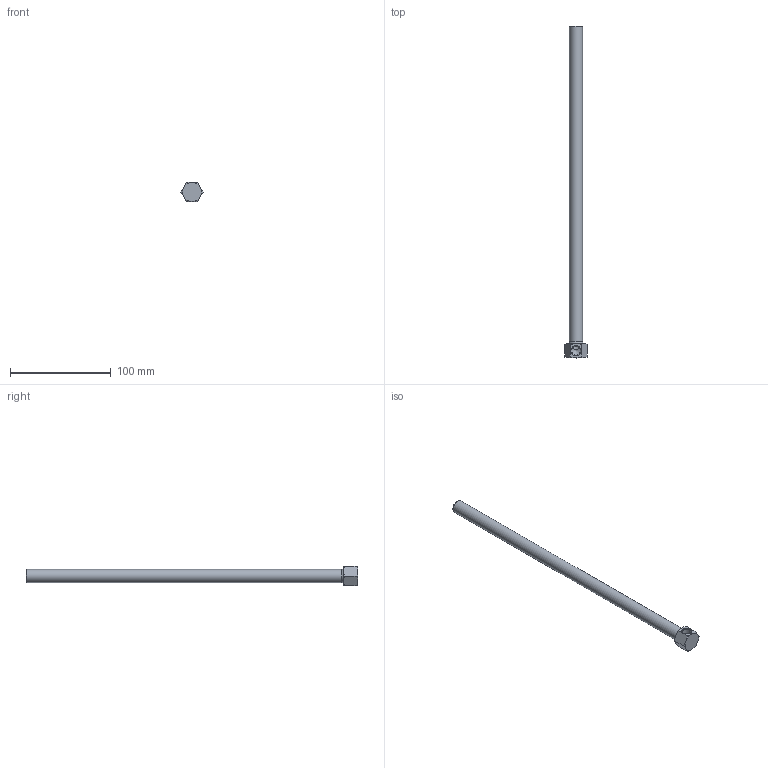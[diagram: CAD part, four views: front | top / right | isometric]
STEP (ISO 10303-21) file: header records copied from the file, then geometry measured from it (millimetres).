
FILE_DESCRIPTION(/* description */ (''),/* implementation_level */ '2;1');
FILE_NAME(/* name */ 'C:/Users/drich/Desktop/1814B-13 v1.step',/* time_stamp */ '2019-12-29T15:31:10-06:00',/* author */ (''),/* organization */ (''),/* preprocessor_version */ 'ST-DEVELOPER v18',/* originating_system */ 'Autodesk Translation Framework v8.12.0.6',/* authorisation */ '');
FILE_SCHEMA (('AUTOMOTIVE_DESIGN { 1 0 10303 214 3 1 1 }'));
Length unit declared in the file: inch
Products named in the file (1): 1814B-13
Bounding box: 22 x 330.2 x 19.05 mm (x, y, z)
Volume: 26783.2 mm3; surface area: 23394.1 mm2
Topology: 1 solids, 1 shells, 22 faces, 57 edges, 37 vertices
Faces by surface type: plane 9, cone 8, cylinder 4, torus 1
Full cylindrical faces by diameter (mm): 8.707 x1, 8.712 x1, 13.032 x1
Entity records: 801 total; most frequent: CARTESIAN_POINT 256, ORIENTED_EDGE 112, DIRECTION 100, EDGE_CURVE 56, AXIS2_PLACEMENT_3D 42, VERTEX_POINT 37, EDGE_LOOP 25, FACE_OUTER_BOUND 22
